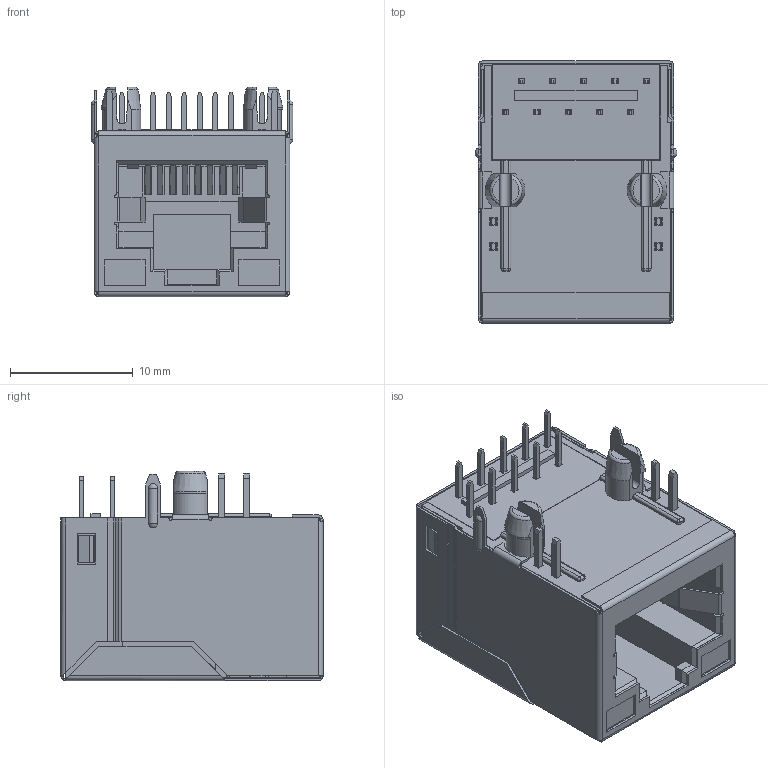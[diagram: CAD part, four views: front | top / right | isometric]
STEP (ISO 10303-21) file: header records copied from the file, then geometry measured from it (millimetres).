
FILE_DESCRIPTION((''),'2;1');
FILE_NAME('DGKYD211Q066CD2A4D','2023-02-22T08:51:57',('Administrator'),(''),'CREO PARAMETRIC BY PTC INC, 2019010','CREO PARAMETRIC BY PTC INC, 2019010','');
FILE_SCHEMA(('CONFIG_CONTROL_DESIGN'));
Length unit declared in the file: millimetre
Products named in the file (1): DGKYD211Q066CD2A4D
Bounding box: 16.45 x 21.35 x 17.05 mm (x, y, z)
Volume: 1917.3 mm3; surface area: 6821.5 mm2
Topology: 6 solids, 6 shells, 1096 faces, 3303 edges, 2160 vertices
Faces by surface type: plane 910, cylinder 166, sphere 12, torus 4, cone 4
Entity records: 36949 total; most frequent: CARTESIAN_POINT 6985, ORIENTED_EDGE 6590, DIRECTION 5775, EDGE_CURVE 3295, VECTOR 2839, LINE 2839, VERTEX_POINT 2160, AXIS2_PLACEMENT_3D 1468
